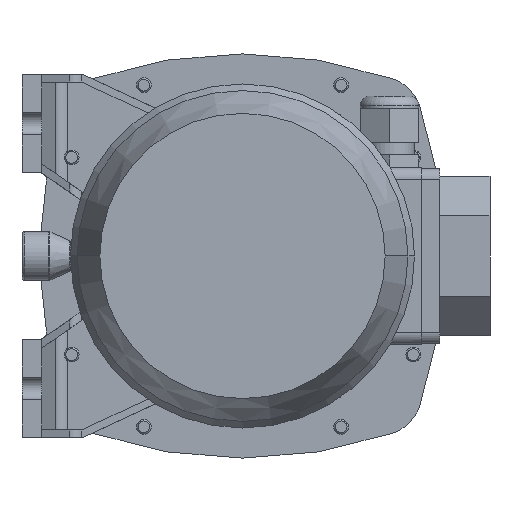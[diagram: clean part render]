
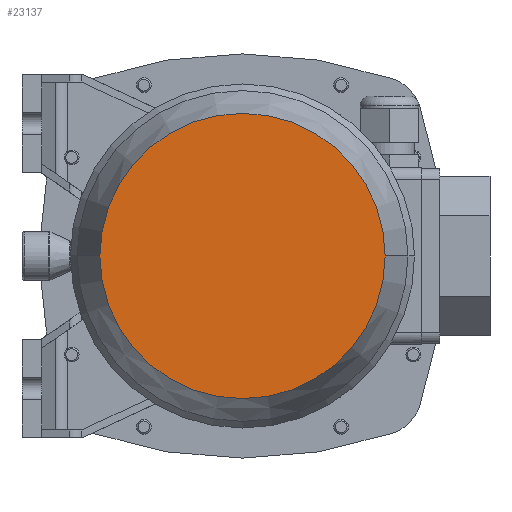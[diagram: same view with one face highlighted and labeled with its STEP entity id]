
A CAD part, front view. The second image highlights one B-rep face of the part: STEP entity #23137.
In plain terms, the highlighted planar face has unit normal (0, -1, 0) as drawn and (1, 0, 0) by its records, which use the part's own axes.
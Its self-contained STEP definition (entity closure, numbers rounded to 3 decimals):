
#16474=CARTESIAN_POINT('',(181.,0.,0.));
#16475=DIRECTION('',(-1.,0.,0.));
#16476=DIRECTION('',(0.,1.,0.));
#16477=AXIS2_PLACEMENT_3D('',#16474,#16475,#16476);
#16482=CARTESIAN_POINT('',(181.,0.,0.));
#16483=DIRECTION('',(1.,0.,0.));
#16484=DIRECTION('',(0.,1.,0.));
#16485=AXIS2_PLACEMENT_3D('',#16482,#16483,#16484);
#18425=CARTESIAN_POINT('',(181.,58.207,0.));
#18427=VERTEX_POINT('',#18425);
#18435=CARTESIAN_POINT('',(181.,-58.207,0.));
#18437=VERTEX_POINT('',#18435);
#23128=CARTESIAN_POINT('',(181.,0.,0.));
#23129=DIRECTION('',(1.,0.,0.));
#23130=DIRECTION('',(0.,-1.,0.));
#23131=AXIS2_PLACEMENT_3D('',#23128,#23129,#23130);
#23132=PLANE('',#23131);
#23133=ORIENTED_EDGE('',*,*,#23110,.T.);
#23134=ORIENTED_EDGE('',*,*,#23121,.F.);
#23135=EDGE_LOOP('',(#23133,#23134));
#23136=FACE_OUTER_BOUND('',#23135,.F.);
#16478=CIRCLE('',#16477,58.207);
#16486=CIRCLE('',#16485,58.207);
#23110=EDGE_CURVE('',#18427,#18437,#16478,.T.);
#23121=EDGE_CURVE('',#18427,#18437,#16486,.T.);
#23137=ADVANCED_FACE('',(#23136),#23132,.T.);
